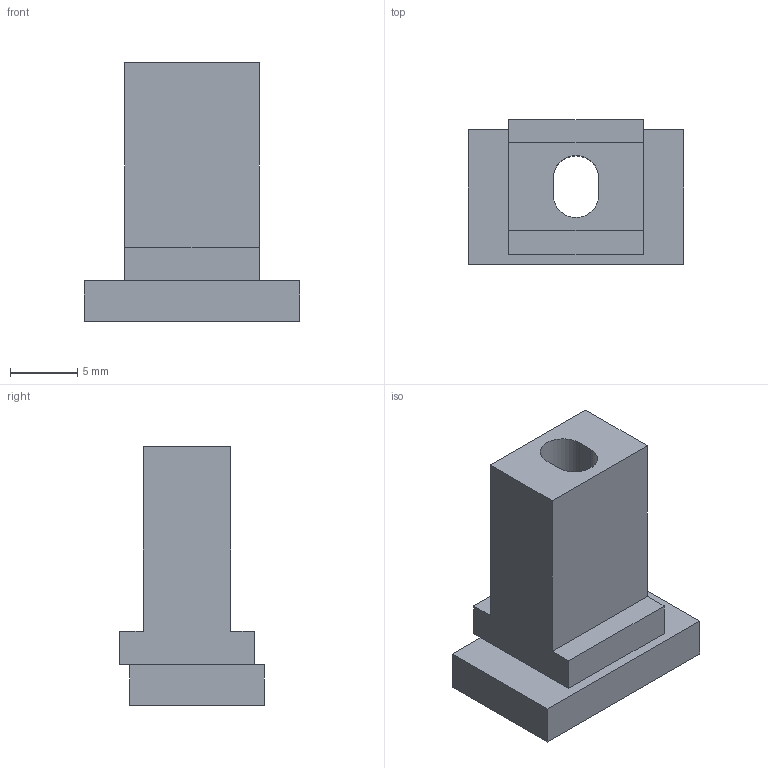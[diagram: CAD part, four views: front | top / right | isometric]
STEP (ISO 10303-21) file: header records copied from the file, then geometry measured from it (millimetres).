
FILE_DESCRIPTION(('Open CASCADE Model'),'2;1');
FILE_NAME('Open CASCADE Shape Model','2026-10-02T07:52:38',('Author'),( 'Open CASCADE'),'Open CASCADE STEP processor 7.8','Open CASCADE 7.8' ,'Unknown');
FILE_SCHEMA(('AUTOMOTIVE_DESIGN { 1 0 10303 214 1 1 1 1 }'));
Length unit declared in the file: millimetre
Products named in the file (1): Open CASCADE STEP translator 7.8 11
Bounding box: 16 x 10.75 x 19.2 mm (x, y, z)
Volume: 1289.5 mm3; surface area: 1296.1 mm2
Topology: 1 solids, 1 shells, 25 faces, 64 edges, 42 vertices
Faces by surface type: plane 21, cylinder 4
Entity records: 1574 total; most frequent: CARTESIAN_POINT 282, DIRECTION 230, LINE 154, VECTOR 154, ORIENTED_EDGE 128, PCURVE 128, DEFINITIONAL_REPRESENTATION 128, EDGE_CURVE 64
